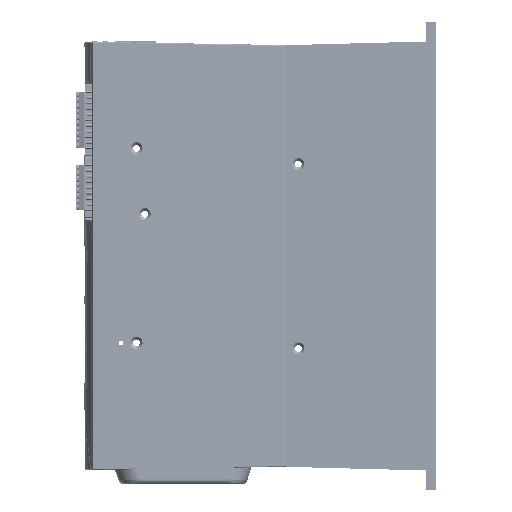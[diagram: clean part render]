
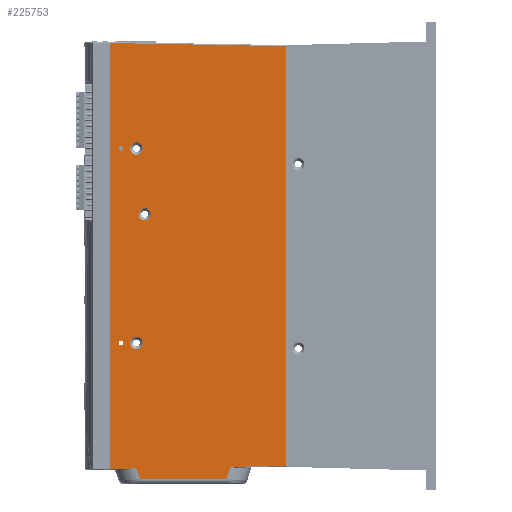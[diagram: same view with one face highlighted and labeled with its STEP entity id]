
A CAD part, left-side view. The second image highlights one B-rep face of the part: STEP entity #225753.
In plain terms, the highlighted planar face has unit normal (-1, -0.018, 0) as drawn and (-1, 0, -0.017) by its records, which use the part's own axes.
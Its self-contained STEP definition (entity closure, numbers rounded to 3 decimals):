
#10593=ELLIPSE('',#237518,0.057,0.057);
#10595=ELLIPSE('',#237521,0.057,0.057);
#10600=ELLIPSE('',#237533,0.148,0.148);
#10601=ELLIPSE('',#237535,0.151,0.151);
#10602=ELLIPSE('',#237537,0.151,0.151);
#13796=LINE('',#323142,#41682);
#14044=LINE('',#323911,#41930);
#14101=LINE('',#324178,#41987);
#14103=LINE('',#324184,#41989);
#14104=LINE('',#324185,#41990);
#14105=LINE('',#324187,#41991);
#14106=LINE('',#324189,#41992);
#14107=LINE('',#324190,#41993);
#41682=VECTOR('',#258011,0.394);
#41930=VECTOR('',#258705,0.394);
#41987=VECTOR('',#258866,0.394);
#41989=VECTOR('',#258872,0.394);
#41990=VECTOR('',#258873,0.394);
#41991=VECTOR('',#258874,0.394);
#41992=VECTOR('',#258875,0.394);
#41993=VECTOR('',#258876,0.394);
#68421=PLANE('',#238116);
#76143=FACE_BOUND('',#89249,.T.);
#76144=FACE_BOUND('',#89250,.T.);
#76145=FACE_BOUND('',#89251,.T.);
#76146=FACE_BOUND('',#89252,.T.);
#76147=FACE_BOUND('',#89253,.T.);
#78255=FACE_OUTER_BOUND('',#89248,.T.);
#89248=EDGE_LOOP('',(#172685,#172686,#172687,#172688,#172689,#172690,#172691,
#172692));
#89249=EDGE_LOOP('',(#172693));
#89250=EDGE_LOOP('',(#172694));
#89251=EDGE_LOOP('',(#172695));
#89252=EDGE_LOOP('',(#172696));
#89253=EDGE_LOOP('',(#172697));
#105351=VERTEX_POINT('',#321302);
#105353=VERTEX_POINT('',#321307);
#105361=VERTEX_POINT('',#321328);
#105362=VERTEX_POINT('',#321331);
#105363=VERTEX_POINT('',#321334);
#105923=VERTEX_POINT('',#323134);
#105925=VERTEX_POINT('',#323140);
#106142=VERTEX_POINT('',#323908);
#106143=VERTEX_POINT('',#323910);
#106211=VERTEX_POINT('',#324177);
#106213=VERTEX_POINT('',#324183);
#106214=VERTEX_POINT('',#324186);
#106215=VERTEX_POINT('',#324188);
#133450=EDGE_CURVE('',#105351,#105351,#10593,.T.);
#133452=EDGE_CURVE('',#105353,#105353,#10595,.T.);
#133461=EDGE_CURVE('',#105361,#105361,#10600,.T.);
#133462=EDGE_CURVE('',#105362,#105362,#10601,.T.);
#133463=EDGE_CURVE('',#105363,#105363,#10602,.T.);
#134248=EDGE_CURVE('',#105925,#105923,#13796,.T.);
#134596=EDGE_CURVE('',#106143,#106142,#14044,.T.);
#134690=EDGE_CURVE('',#106143,#106211,#14101,.T.);
#134693=EDGE_CURVE('',#106213,#106142,#14103,.T.);
#134694=EDGE_CURVE('',#105923,#106213,#14104,.T.);
#134695=EDGE_CURVE('',#105925,#106214,#14105,.T.);
#134696=EDGE_CURVE('',#106215,#106214,#14106,.T.);
#134697=EDGE_CURVE('',#106215,#106211,#14107,.T.);
#172685=ORIENTED_EDGE('',*,*,#134690,.F.);
#172686=ORIENTED_EDGE('',*,*,#134596,.T.);
#172687=ORIENTED_EDGE('',*,*,#134693,.F.);
#172688=ORIENTED_EDGE('',*,*,#134694,.F.);
#172689=ORIENTED_EDGE('',*,*,#134248,.F.);
#172690=ORIENTED_EDGE('',*,*,#134695,.T.);
#172691=ORIENTED_EDGE('',*,*,#134696,.F.);
#172692=ORIENTED_EDGE('',*,*,#134697,.T.);
#172693=ORIENTED_EDGE('',*,*,#133450,.T.);
#172694=ORIENTED_EDGE('',*,*,#133452,.T.);
#172695=ORIENTED_EDGE('',*,*,#133461,.T.);
#172696=ORIENTED_EDGE('',*,*,#133462,.T.);
#172697=ORIENTED_EDGE('',*,*,#133463,.T.);
#225753=ADVANCED_FACE('',(#78255,#76143,#76144,#76145,#76146,#76147),#68421,
 .T.);
#237518=AXIS2_PLACEMENT_3D('',#321303,#256648,#256649);
#237521=AXIS2_PLACEMENT_3D('',#321308,#256654,#256655);
#237533=AXIS2_PLACEMENT_3D('',#321329,#256679,#256680);
#237535=AXIS2_PLACEMENT_3D('',#321332,#256683,#256684);
#237537=AXIS2_PLACEMENT_3D('',#321335,#256687,#256688);
#238116=AXIS2_PLACEMENT_3D('',#324182,#258870,#258871);
#256648=DIRECTION('center_axis',(1.,0.,
0.017));
#256649=DIRECTION('ref_axis',(-0.017,0.,
1.));
#256654=DIRECTION('center_axis',(1.,0.,
0.017));
#256655=DIRECTION('ref_axis',(0.017,0.,-1.));
#256679=DIRECTION('center_axis',(1.,0.,
0.017));
#256680=DIRECTION('ref_axis',(0.017,0.,-1.));
#256683=DIRECTION('center_axis',(1.,0.,
0.017));
#256684=DIRECTION('ref_axis',(0.017,0.,-1.));
#256687=DIRECTION('center_axis',(1.,0.,
0.017));
#256688=DIRECTION('ref_axis',(0.017,0.,-1.));
#258011=DIRECTION('',(-0.017,0.,1.));
#258705=DIRECTION('',(0.,1.,0.));
#258866=DIRECTION('',(0.017,0.017,-1.));
#258870=DIRECTION('center_axis',(-1.,0.,
-0.017));
#258871=DIRECTION('ref_axis',(0.,-1.,0.));
#258872=DIRECTION('',(-0.017,0.017,1.));
#258873=DIRECTION('',(-0.006,-0.942,0.334));
#258874=DIRECTION('',(0.005,-0.957,-0.291));
#258875=DIRECTION('',(-0.017,0.017,1.));
#258876=DIRECTION('',(0.,-1.,0.));
#321302=CARTESIAN_POINT('',(-0.07,7.271,4.02));
#321303=CARTESIAN_POINT('Origin',(-0.071,7.271,
4.078));
#321307=CARTESIAN_POINT('',(-0.072,2.524,4.135));
#321308=CARTESIAN_POINT('Origin',(-0.071,2.525,
4.078));
#321328=CARTESIAN_POINT('',(-0.064,4.128,3.651));
#321329=CARTESIAN_POINT('Origin',(-0.061,4.128,
3.504));
#321331=CARTESIAN_POINT('',(-0.067,7.271,3.857));
#321332=CARTESIAN_POINT('Origin',(-0.065,7.271,
3.705));
#321334=CARTESIAN_POINT('',(-0.067,2.525,3.857));
#321335=CARTESIAN_POINT('Origin',(-0.065,2.525,
3.705));
#323134=CARTESIAN_POINT('',(-0.063,10.596,3.611));
#323140=CARTESIAN_POINT('',(-0.026,10.596,1.503));
#323142=CARTESIAN_POINT('',(-0.022,10.596,1.27));
#323908=CARTESIAN_POINT('',(-0.076,10.346,4.353));
#323910=CARTESIAN_POINT('',(-0.076,-0.051,4.353));
#323911=CARTESIAN_POINT('',(-0.076,10.37,4.353));
#324177=CARTESIAN_POINT('',(-0.001,0.024,0.06));
#324178=CARTESIAN_POINT('',(0.001,0.026,-0.037));
#324182=CARTESIAN_POINT('Origin',(0.,0.,0.));
#324183=CARTESIAN_POINT('',(-0.065,10.334,3.704));
#324184=CARTESIAN_POINT('',(0.002,10.268,-0.089));
#324185=CARTESIAN_POINT('',(-0.089,6.358,5.114));
#324186=CARTESIAN_POINT('',(-0.025,10.294,1.411));
#324187=CARTESIAN_POINT('',(0.001,5.529,-0.04));
#324188=CARTESIAN_POINT('',(-0.001,10.271,0.06));
#324189=CARTESIAN_POINT('',(0.002,10.268,-0.089));
#324190=CARTESIAN_POINT('',(-0.001,5.17,0.06));
